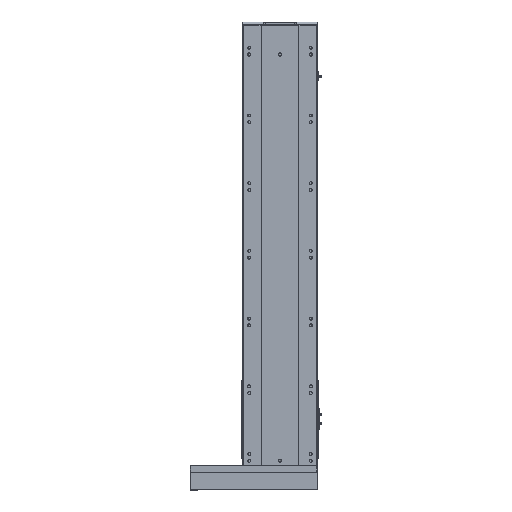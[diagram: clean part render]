
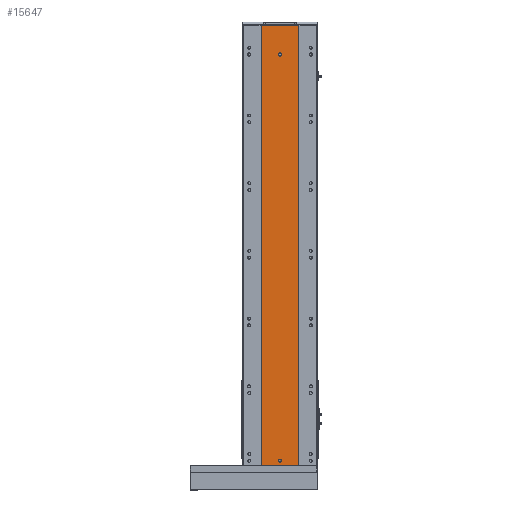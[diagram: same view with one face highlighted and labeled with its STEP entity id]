
A CAD part, top view. The second image highlights one B-rep face of the part: STEP entity #15647.
In plain terms, the highlighted planar face has unit normal (0, 0, 1).
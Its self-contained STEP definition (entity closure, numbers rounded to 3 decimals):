
#405 = CARTESIAN_POINT ( 'NONE',  ( 55., 1301., 58. ) ) ;
#1147 = VERTEX_POINT ( 'NONE', #103133 ) ;
#3345 = CARTESIAN_POINT ( 'NONE',  ( -55., 1301., 58. ) ) ;
#4576 = DIRECTION ( 'NONE',  ( -1., 0., 0. ) ) ;
#5618 = CARTESIAN_POINT ( 'NONE',  ( -4., 14., 58. ) ) ;
#6886 = EDGE_CURVE ( 'NONE', #67848, #13834, #118750, .T. ) ;
#7538 = CARTESIAN_POINT ( 'NONE',  ( -4., 1215., 58. ) ) ;
#8531 = VECTOR ( 'NONE', #37122, 1000. ) ;
#8904 = EDGE_LOOP ( 'NONE', ( #44889, #43930 ) ) ;
#10787 = AXIS2_PLACEMENT_3D ( 'NONE', #90735, #108623, #4576 ) ;
#10936 = VECTOR ( 'NONE', #84892, 1000. ) ;
#13658 = CARTESIAN_POINT ( 'NONE',  ( 4., 14., 58. ) ) ;
#13834 = VERTEX_POINT ( 'NONE', #58831 ) ;
#14976 = PLANE ( 'NONE',  #10787 ) ;
#15647 = ADVANCED_FACE ( 'NONE', ( #111494, #16239, #108548 ), #14976, .F. ) ;
#16239 = FACE_BOUND ( 'NONE', #21535, .T. ) ;
#16428 = ORIENTED_EDGE ( 'NONE', *, *, #6886, .F. ) ;
#16740 = VERTEX_POINT ( 'NONE', #114268 ) ;
#20147 = DIRECTION ( 'NONE',  ( 1., 0., 0. ) ) ;
#21535 = EDGE_LOOP ( 'NONE', ( #68062, #16428, #117348, #50704 ) ) ;
#23940 = EDGE_LOOP ( 'NONE', ( #34125, #109133, #51467, #97809 ) ) ;
#30030 = VERTEX_POINT ( 'NONE', #5618 ) ;
#31039 = EDGE_CURVE ( 'NONE', #62041, #67848, #73757, .T. ) ;
#32309 = CIRCLE ( 'NONE', #35887, 4. ) ;
#32927 = LINE ( 'NONE', #62022, #102933 ) ;
#34125 = ORIENTED_EDGE ( 'NONE', *, *, #105732, .T. ) ;
#35887 = AXIS2_PLACEMENT_3D ( 'NONE', #41592, #97763, #97347 ) ;
#37122 = DIRECTION ( 'NONE',  ( 0., -1., 0. ) ) ;
#37981 = EDGE_CURVE ( 'NONE', #96901, #115328, #90495, .T. ) ;
#38163 = CARTESIAN_POINT ( 'NONE',  ( 0., 1215., 58. ) ) ;
#41592 = CARTESIAN_POINT ( 'NONE',  ( 0., 14., 58. ) ) ;
#43930 = ORIENTED_EDGE ( 'NONE', *, *, #107722, .F. ) ;
#44889 = ORIENTED_EDGE ( 'NONE', *, *, #88054, .F. ) ;
#44983 = CARTESIAN_POINT ( 'NONE',  ( -55., 0., 58. ) ) ;
#46698 = LINE ( 'NONE', #113967, #10936 ) ;
#46819 = DIRECTION ( 'NONE',  ( 0., 0., 1. ) ) ;
#48286 = EDGE_CURVE ( 'NONE', #16740, #96901, #88617, .T. ) ;
#49697 = DIRECTION ( 'NONE',  ( 0., 0., 1. ) ) ;
#50704 = ORIENTED_EDGE ( 'NONE', *, *, #55083, .F. ) ;
#51175 = DIRECTION ( 'NONE',  ( 1., 0., 0. ) ) ;
#51467 = ORIENTED_EDGE ( 'NONE', *, *, #48286, .F. ) ;
#52620 = EDGE_CURVE ( 'NONE', #16740, #1147, #32927, .T. ) ;
#54097 = DIRECTION ( 'NONE',  ( 0., -1., 0. ) ) ;
#55083 = EDGE_CURVE ( 'NONE', #74448, #62041, #77858, .T. ) ;
#55831 = VECTOR ( 'NONE', #88127, 1000. ) ;
#57229 = DIRECTION ( 'NONE',  ( 1., 0., 0. ) ) ;
#58831 = CARTESIAN_POINT ( 'NONE',  ( 4., 1213., 58. ) ) ;
#62022 = CARTESIAN_POINT ( 'NONE',  ( -55., 1301., 58. ) ) ;
#62041 = VERTEX_POINT ( 'NONE', #7538 ) ;
#63963 = VECTOR ( 'NONE', #102839, 1000. ) ;
#65143 = DIRECTION ( 'NONE',  ( 1., 0., 0. ) ) ;
#67848 = VERTEX_POINT ( 'NONE', #86735 ) ;
#68062 = ORIENTED_EDGE ( 'NONE', *, *, #68310, .F. ) ;
#68310 = EDGE_CURVE ( 'NONE', #13834, #74448, #46698, .T. ) ;
#73757 = LINE ( 'NONE', #118032, #55831 ) ;
#74448 = VERTEX_POINT ( 'NONE', #87328 ) ;
#77858 = CIRCLE ( 'NONE', #82586, 4. ) ;
#79167 = CARTESIAN_POINT ( 'NONE',  ( 55., 0., 58. ) ) ;
#79673 = CIRCLE ( 'NONE', #84108, 4. ) ;
#81679 = VERTEX_POINT ( 'NONE', #13658 ) ;
#82586 = AXIS2_PLACEMENT_3D ( 'NONE', #38163, #105923, #57229 ) ;
#84108 = AXIS2_PLACEMENT_3D ( 'NONE', #107147, #49697, #20147 ) ;
#84892 = DIRECTION ( 'NONE',  ( 0., 1., 0. ) ) ;
#86735 = CARTESIAN_POINT ( 'NONE',  ( -4., 1213., 58. ) ) ;
#86869 = AXIS2_PLACEMENT_3D ( 'NONE', #103840, #46819, #65143 ) ;
#87328 = CARTESIAN_POINT ( 'NONE',  ( 4., 1215., 58. ) ) ;
#88054 = EDGE_CURVE ( 'NONE', #81679, #30030, #79673, .T. ) ;
#88127 = DIRECTION ( 'NONE',  ( 0., -1., 0. ) ) ;
#88617 = LINE ( 'NONE', #3345, #118285 ) ;
#89281 = LINE ( 'NONE', #44983, #63963 ) ;
#90495 = LINE ( 'NONE', #405, #8531 ) ;
#90735 = CARTESIAN_POINT ( 'NONE',  ( -55., 1301., 58. ) ) ;
#96901 = VERTEX_POINT ( 'NONE', #116442 ) ;
#97347 = DIRECTION ( 'NONE',  ( 1., 0., 0. ) ) ;
#97763 = DIRECTION ( 'NONE',  ( 0., 0., 1. ) ) ;
#97809 = ORIENTED_EDGE ( 'NONE', *, *, #52620, .T. ) ;
#102839 = DIRECTION ( 'NONE',  ( 1., 0., 0. ) ) ;
#102933 = VECTOR ( 'NONE', #54097, 1000. ) ;
#103133 = CARTESIAN_POINT ( 'NONE',  ( -55., 0., 58. ) ) ;
#103840 = CARTESIAN_POINT ( 'NONE',  ( 0., 1213., 58. ) ) ;
#105732 = EDGE_CURVE ( 'NONE', #1147, #115328, #89281, .T. ) ;
#105923 = DIRECTION ( 'NONE',  ( 0., 0., 1. ) ) ;
#107147 = CARTESIAN_POINT ( 'NONE',  ( 0., 14., 58. ) ) ;
#107722 = EDGE_CURVE ( 'NONE', #30030, #81679, #32309, .T. ) ;
#108548 = FACE_OUTER_BOUND ( 'NONE', #23940, .T. ) ;
#108623 = DIRECTION ( 'NONE',  ( 0., 0., -1. ) ) ;
#109133 = ORIENTED_EDGE ( 'NONE', *, *, #37981, .F. ) ;
#111494 = FACE_BOUND ( 'NONE', #8904, .T. ) ;
#113967 = CARTESIAN_POINT ( 'NONE',  ( 4., 1213., 58. ) ) ;
#114268 = CARTESIAN_POINT ( 'NONE',  ( -55., 1301., 58. ) ) ;
#115328 = VERTEX_POINT ( 'NONE', #79167 ) ;
#116442 = CARTESIAN_POINT ( 'NONE',  ( 55., 1301., 58. ) ) ;
#117348 = ORIENTED_EDGE ( 'NONE', *, *, #31039, .F. ) ;
#118032 = CARTESIAN_POINT ( 'NONE',  ( -4., 1213., 58. ) ) ;
#118285 = VECTOR ( 'NONE', #51175, 1000. ) ;
#118750 = CIRCLE ( 'NONE', #86869, 4. ) ;
